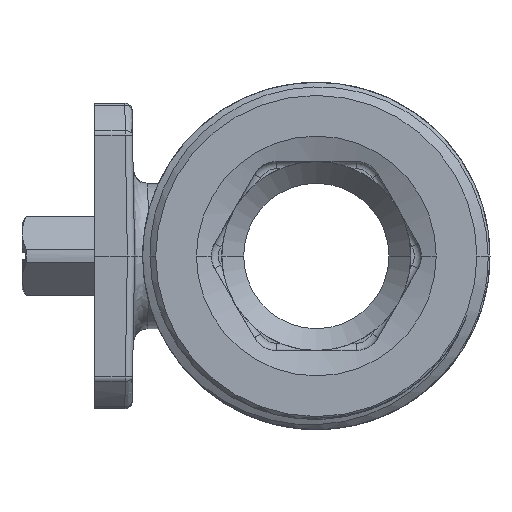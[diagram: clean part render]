
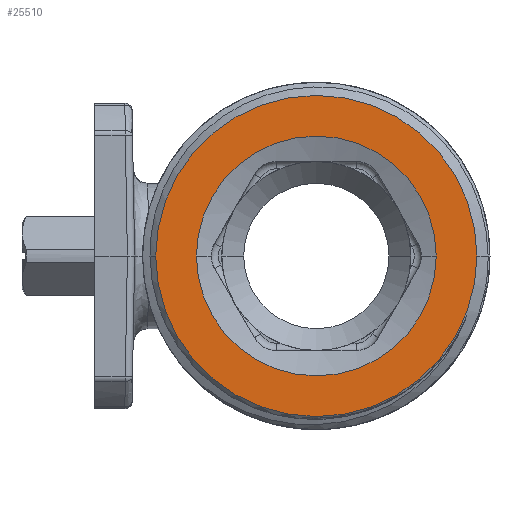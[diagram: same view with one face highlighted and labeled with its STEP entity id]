
A CAD part, left-side view. The second image highlights one B-rep face of the part: STEP entity #25510.
In plain terms, the highlighted planar face has unit normal (-1, 0, 0).
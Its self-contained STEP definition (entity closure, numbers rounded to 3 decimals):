
#2826=CARTESIAN_POINT('',(-45.,0.,0.));
#2827=DIRECTION('',(-1.,0.,0.));
#2828=DIRECTION('',(0.,-1.,0.));
#2829=AXIS2_PLACEMENT_3D('',#2826,#2827,#2828);
#2831=CARTESIAN_POINT('',(-45.,0.,0.));
#2832=DIRECTION('',(1.,0.,0.));
#2833=DIRECTION('',(0.,-1.,0.));
#2834=AXIS2_PLACEMENT_3D('',#2831,#2832,#2833);
#2836=CARTESIAN_POINT('',(-45.,0.,0.));
#2837=DIRECTION('',(1.,0.,0.));
#2838=DIRECTION('',(0.,-1.,0.));
#2839=AXIS2_PLACEMENT_3D('',#2836,#2837,#2838);
#2849=CARTESIAN_POINT('',(-45.,0.,0.));
#2850=DIRECTION('',(-1.,0.,0.));
#2851=DIRECTION('',(0.,-1.,0.));
#2852=AXIS2_PLACEMENT_3D('',#2849,#2850,#2851);
#20245=CARTESIAN_POINT('',(-45.,-16.5,0.));
#20247=VERTEX_POINT('',#20245);
#20249=CARTESIAN_POINT('',(-45.,16.5,0.));
#20251=VERTEX_POINT('',#20249);
#20253=CARTESIAN_POINT('',(-45.,-22.1,0.));
#20254=CARTESIAN_POINT('',(-45.,22.1,0.));
#20255=VERTEX_POINT('',#20253);
#20256=VERTEX_POINT('',#20254);
#25495=CARTESIAN_POINT('',(-45.,0.,0.));
#25496=DIRECTION('',(1.,0.,0.));
#25497=DIRECTION('',(0.,-1.,0.));
#25498=AXIS2_PLACEMENT_3D('',#25495,#25496,#25497);
#25499=PLANE('',#25498);
#25500=ORIENTED_EDGE('',*,*,#25489,.F.);
#25501=ORIENTED_EDGE('',*,*,#23965,.T.);
#25502=EDGE_LOOP('',(#25500,#25501));
#25503=FACE_OUTER_BOUND('',#25502,.F.);
#25505=ORIENTED_EDGE('',*,*,#25504,.F.);
#25507=ORIENTED_EDGE('',*,*,#25506,.T.);
#25508=EDGE_LOOP('',(#25505,#25507));
#25509=FACE_BOUND('',#25508,.F.);
#2830=CIRCLE('',#2829,22.1);
#2835=CIRCLE('',#2834,22.1);
#2840=CIRCLE('',#2839,16.5);
#2853=CIRCLE('',#2852,16.5);
#23965=EDGE_CURVE('',#20255,#20256,#2835,.T.);
#25489=EDGE_CURVE('',#20255,#20256,#2830,.T.);
#25504=EDGE_CURVE('',#20247,#20251,#2840,.T.);
#25506=EDGE_CURVE('',#20247,#20251,#2853,.T.);
#25510=ADVANCED_FACE('',(#25503,#25509),#25499,.F.);
